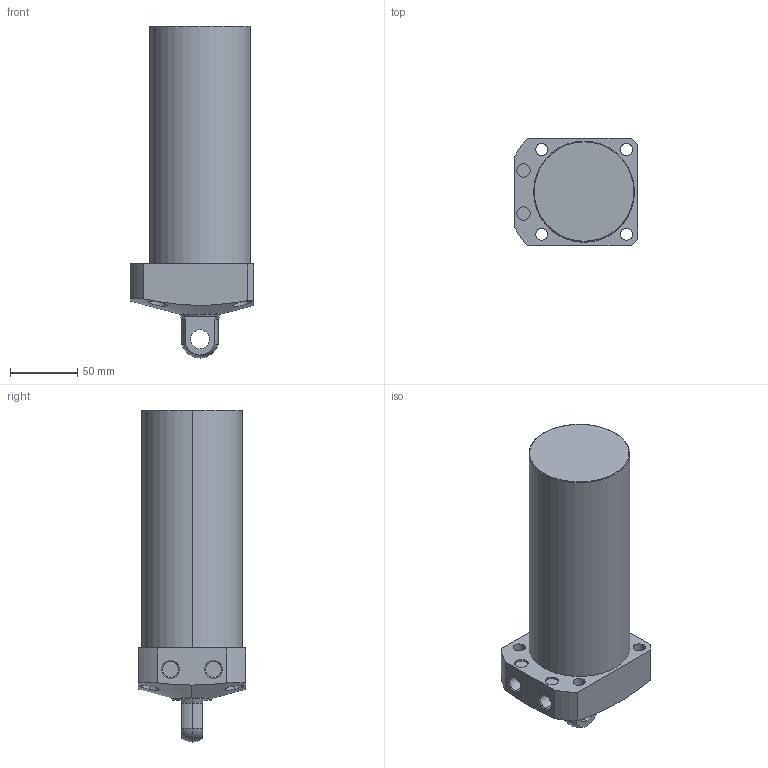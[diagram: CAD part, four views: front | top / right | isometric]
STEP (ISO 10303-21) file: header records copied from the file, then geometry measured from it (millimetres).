
FILE_DESCRIPTION (( 'STEP AP203' ), '1' );
FILE_NAME ('CLL-075CP-140.STEP', '2019-12-25T07:56:56', ( '' ), ( '' ), 'SwSTEP 2.0', 'SolidWorks 2015', '' );
FILE_SCHEMA (( 'CONFIG_CONTROL_DESIGN' ));
Length unit declared in the file: millimetre
Products named in the file (1): CLL-075CP-140
Bounding box: 92 x 80 x 247 mm (x, y, z)
Volume: 1009403.9 mm3; surface area: 73608.3 mm2
Topology: 1 solids, 1 shells, 68 faces, 159 edges, 103 vertices
Faces by surface type: cylinder 35, plane 21, cone 8, sphere 2, torus 2
Entity records: 2459 total; most frequent: CARTESIAN_POINT 762, DIRECTION 357, ORIENTED_EDGE 318, EDGE_CURVE 159, AXIS2_PLACEMENT_3D 149, VERTEX_POINT 103, EDGE_LOOP 88, CIRCLE 80
